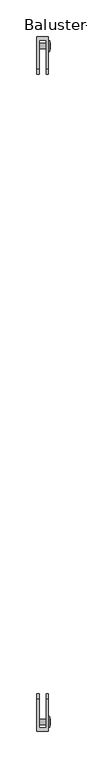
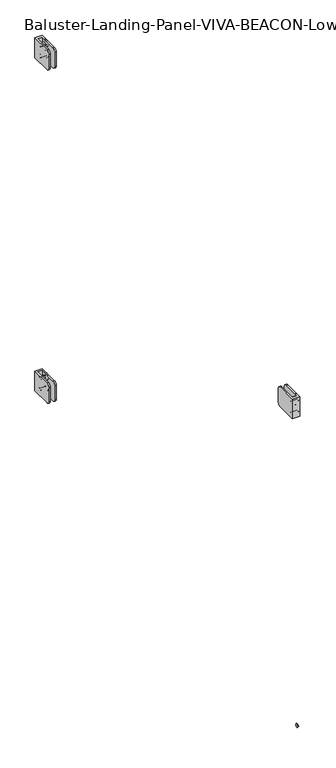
"""IFC4 building model written with IfcOpenShell, lengths in millimetres: railing geometry, Baluster-Landing-Panel-VIVA-BEACON-Lower : Standard_Glass."""

from ifc_helpers import new_model, si_unit, point, frame, origin, place, context, project, spatial, polyline, circle_curve, ellipse_curve, trimmed, outline, extrude, source, transform, mapped, element, save
from ifc_brep_helpers import plane_surface, cylinder_surface, revolved_surface, advanced_brep


def baluster_landing_panel_viva_beacon_lower_standard_glass_253f4b5c(model_context):
    return source(origin(), model_context, "Body", "SolidModel", [
        extrude(outline(polyline([(910.1150835, 973.286725), (908.0681194, 969.7412791), (903.9741911, 969.7412791), (901.9272269, 973.286725), (903.9741911, 976.8321709), (908.0681194, 976.8321709), (910.1150835, 973.286725)])), frame((46.904612, 0.0, 0.0), z_axis=(1.0, 0.0, 0.0), x_axis=(0.0, 1.0, 0.0)), (0.0, 0.0, 1.0), 1.4969696),
        advanced_brep(
        [(33.3375, 909.5666011, 973.286725), (46.0375, 909.5666011, 973.286725), (46.0375, 902.4757093, 973.286725), (33.3375, 902.4757093, 973.286725), (46.0375, 913.4289443, 973.286725), (46.0375, 898.6133661, 973.286725), (46.904612, 907.6772306, 973.286725), (33.3375, 907.6772306, 973.286725), (33.3375, 904.3650798, 973.286725), (46.904612, 904.3650798, 973.286725), (46.8723449, 913.4289443, 973.286725), (48.1536169, 912.1476723, 973.286725), (48.1536169, 899.8946382, 973.286725), (46.8723449, 898.6133661, 973.286725), (48.1536169, 910.3197508, 973.286725), (48.1536169, 901.7225597, 973.286725), (46.904612, 910.3197508, 973.286725), (46.904612, 901.7225597, 973.286725)],
        [
            (0, 1),
            (1, 2, circle_curve(frame((46.0375, 906.0211552, 973.286725), z_axis=(-1.0, 0.0, 0.0), x_axis=(0.0, -1.0, 0.0)), 3.5454459)),
            (2, 3),
            (3, 0, circle_curve(frame((33.3375, 906.0211552, 973.286725), z_axis=(1.0, 0.0, 0.0), x_axis=(0.0, -1.0, 0.0)), 3.5454459)),
            (2, 1, circle_curve(frame((46.0375, 906.0211552, 973.286725), z_axis=(-1.0, 0.0, 0.0), x_axis=(0.0, -1.0, 0.0)), 3.5454459)),
            (0, 3, circle_curve(frame((33.3375, 906.0211552, 973.286725), z_axis=(1.0, 0.0, 0.0), x_axis=(0.0, -1.0, 0.0)), 3.5454459)),
            (1, 4),
            (4, 5, circle_curve(frame((46.0375, 906.0211552, 973.286725), z_axis=(-1.0, 0.0, 0.0), x_axis=(0.0, -1.0, 0.0)), 7.4077891)),
            (5, 2),
            (5, 4, circle_curve(frame((46.0375, 906.0211552, 973.286725), z_axis=(-1.0, 0.0, 0.0), x_axis=(0.0, -1.0, 0.0)), 7.4077891)),
            (6, 7),
            (7, 8, circle_curve(frame((33.3375, 906.0211552, 973.286725), z_axis=(-1.0, 0.0, 0.0), x_axis=(0.0, -1.0, 0.0)), 1.6560754)),
            (8, 9),
            (9, 6, circle_curve(frame((46.904612, 906.0211552, 973.286725), z_axis=(1.0, 0.0, 0.0), x_axis=(0.0, -1.0, 0.0)), 1.6560754)),
            (8, 7, circle_curve(frame((33.3375, 906.0211552, 973.286725), z_axis=(-1.0, 0.0, 0.0), x_axis=(0.0, -1.0, 0.0)), 1.6560754)),
            (6, 9, circle_curve(frame((46.904612, 906.0211552, 973.286725), z_axis=(1.0, 0.0, 0.0), x_axis=(0.0, -1.0, 0.0)), 1.6560754)),
            (10, 11, circle_curve(frame((46.8723449, 912.1476723, 973.286725), z_axis=(0.0, 0.0, -1.0), x_axis=(0.0, 1.0, 0.0)), 1.281272)),
            (11, 12, circle_curve(frame((48.1536169, 906.0211552, 973.286725), z_axis=(-1.0, 0.0, 0.0), x_axis=(0.0, -1.0, 0.0)), 6.1265171)),
            (12, 13, circle_curve(frame((46.8723449, 899.8946382, 973.286725), z_axis=(0.0, 0.0, -1.0), x_axis=(0.0, -1.0, 0.0)), 1.281272)),
            (13, 10, circle_curve(frame((46.8723449, 906.0211552, 973.286725), z_axis=(1.0, 0.0, 0.0), x_axis=(0.0, -1.0, 0.0)), 7.4077891)),
            (12, 11, circle_curve(frame((48.1536169, 906.0211552, 973.286725), z_axis=(-1.0, 0.0, 0.0), x_axis=(0.0, -1.0, 0.0)), 6.1265171)),
            (10, 13, circle_curve(frame((46.8723449, 906.0211552, 973.286725), z_axis=(1.0, 0.0, 0.0), x_axis=(0.0, -1.0, 0.0)), 7.4077891)),
            (11, 14),
            (14, 15, circle_curve(frame((48.1536169, 906.0211552, 973.286725), z_axis=(-1.0, 0.0, 0.0), x_axis=(0.0, -1.0, 0.0)), 4.2985955)),
            (15, 12),
            (15, 14, circle_curve(frame((48.1536169, 906.0211552, 973.286725), z_axis=(-1.0, 0.0, 0.0), x_axis=(0.0, -1.0, 0.0)), 4.2985955)),
            (4, 10),
            (13, 5),
            (7, 0),
            (3, 8),
            (14, 16),
            (16, 17, circle_curve(frame((46.904612, 906.0211552, 973.286725), z_axis=(-1.0, 0.0, 0.0), x_axis=(0.0, -1.0, 0.0)), 4.2985955)),
            (17, 15),
            (17, 16, circle_curve(frame((46.904612, 906.0211552, 973.286725), z_axis=(-1.0, 0.0, 0.0), x_axis=(0.0, -1.0, 0.0)), 4.2985955)),
            (16, 6),
            (9, 17),
        ],
        [
            cylinder_surface(frame((42.5407669, 906.0211552, 973.286725), z_axis=(-1.0, 0.0, 0.0), x_axis=(0.0, -1.0, 0.0)), 3.5454459),
            plane_surface(frame((46.0375, 906.0211552, 973.286725), z_axis=(-1.0, 0.0, 0.0), x_axis=(0.0, -1.0, 0.0))),
            revolved_surface(polyline([(33.3375, 904.3650798, 973.286725), (46.904612, 904.3650798, 973.286725)]), (42.5407669, 906.0211552, 973.286725), (-1.0, 0.0, 0.0)),
            revolved_surface(trimmed(ellipse_curve(frame((46.8723449, 899.8946382, 973.286725), z_axis=(0.0, 0.0, -1.0), x_axis=(0.0, -1.0, 0.0)), 1.281272, 1.281272), [point((48.1536169, 899.8946382, 973.286725))], [point((46.8723449, 898.6133661, 973.286725))], True, "CARTESIAN"), (42.5407669, 906.0211552, 973.286725), (-1.0, 0.0, 0.0)),
            plane_surface(frame((48.1536169, 906.0211552, 973.286725), z_axis=(1.0, 0.0, 0.0), x_axis=(0.0, -1.0, 0.0))),
            cylinder_surface(frame((42.5407669, 906.0211552, 973.286725), z_axis=(-1.0, 0.0, 0.0), x_axis=(0.0, -1.0, 0.0)), 7.4077891),
            plane_surface(frame((33.3375, 906.0211552, 973.286725), z_axis=(-1.0, 0.0, 0.0), x_axis=(0.0, -1.0, 0.0))),
            revolved_surface(polyline([(46.904612, 901.7225596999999, 973.286725), (48.1536169, 901.7225596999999, 973.286725)]), (42.5407669, 906.0211552, 973.286725), (-1.0, 0.0, 0.0)),
            plane_surface(frame((46.904612, 906.0211552, 973.286725), z_axis=(1.0, 0.0, 0.0), x_axis=(0.0, -1.0, 0.0))),
        ],
        [
            (0, [[1, 2, 3, 4]]),
            (0, [[-3, 5, -1, 6]]),
            (1, [[7, 8, 9, -2]]),
            (1, [[-9, 10, -7, -5]]),
            (2, [[11, 12, 13, 14]]),
            (2, [[-13, 15, -11, 16]]),
            (3, [[17, 18, 19, 20]]),
            (3, [[-19, 21, -17, 22]]),
            (4, [[23, 24, 25, -18]]),
            (4, [[-25, 26, -23, -21]]),
            (5, [[27, -20, 28, -8]]),
            (5, [[-28, -22, -27, -10]]),
            (6, [[29, -4, 30, -12]]),
            (6, [[-30, -6, -29, -15]]),
            (7, [[31, 32, 33, -24]]),
            (7, [[-33, 34, -31, -26]]),
            (8, [[35, -14, 36, -32]]),
            (8, [[-36, -16, -35, -34]]),
        ],
    ),
        advanced_brep(
        [(33.3375, 909.5666011, 948.680475), (46.0375, 909.5666011, 948.680475), (46.0375, 902.4757093, 948.680475), (33.3375, 902.4757093, 948.680475), (46.0375, 913.4289443, 948.680475), (46.0375, 898.6133661, 948.680475), (46.904612, 907.6772306, 948.680475), (33.3375, 907.6772306, 948.680475), (33.3375, 904.3650798, 948.680475), (46.904612, 904.3650798, 948.680475), (46.8723449, 913.4289443, 948.680475), (48.1536169, 912.1476723, 948.680475), (48.1536169, 899.8946382, 948.680475), (46.8723449, 898.6133661, 948.680475), (48.1536169, 910.3197508, 948.680475), (48.1536169, 901.7225597, 948.680475), (46.904612, 910.3197508, 948.680475), (46.904612, 901.7225597, 948.680475)],
        [
            (0, 1),
            (1, 2, circle_curve(frame((46.0375, 906.0211552, 948.680475), z_axis=(-1.0, 0.0, 0.0), x_axis=(0.0, -1.0, 0.0)), 3.5454459)),
            (2, 3),
            (3, 0, circle_curve(frame((33.3375, 906.0211552, 948.680475), z_axis=(1.0, 0.0, 0.0), x_axis=(0.0, -1.0, 0.0)), 3.5454459)),
            (2, 1, circle_curve(frame((46.0375, 906.0211552, 948.680475), z_axis=(-1.0, 0.0, 0.0), x_axis=(0.0, -1.0, 0.0)), 3.5454459)),
            (0, 3, circle_curve(frame((33.3375, 906.0211552, 948.680475), z_axis=(1.0, 0.0, 0.0), x_axis=(0.0, -1.0, 0.0)), 3.5454459)),
            (1, 4),
            (4, 5, circle_curve(frame((46.0375, 906.0211552, 948.680475), z_axis=(-1.0, 0.0, 0.0), x_axis=(0.0, -1.0, 0.0)), 7.4077891)),
            (5, 2),
            (5, 4, circle_curve(frame((46.0375, 906.0211552, 948.680475), z_axis=(-1.0, 0.0, 0.0), x_axis=(0.0, -1.0, 0.0)), 7.4077891)),
            (6, 7),
            (7, 8, circle_curve(frame((33.3375, 906.0211552, 948.680475), z_axis=(-1.0, 0.0, 0.0), x_axis=(0.0, -1.0, 0.0)), 1.6560754)),
            (8, 9),
            (9, 6, circle_curve(frame((46.904612, 906.0211552, 948.680475), z_axis=(1.0, 0.0, 0.0), x_axis=(0.0, -1.0, 0.0)), 1.6560754)),
            (8, 7, circle_curve(frame((33.3375, 906.0211552, 948.680475), z_axis=(-1.0, 0.0, 0.0), x_axis=(0.0, -1.0, 0.0)), 1.6560754)),
            (6, 9, circle_curve(frame((46.904612, 906.0211552, 948.680475), z_axis=(1.0, 0.0, 0.0), x_axis=(0.0, -1.0, 0.0)), 1.6560754)),
            (10, 11, circle_curve(frame((46.8723449, 912.1476723, 948.680475), z_axis=(0.0, 0.0, -1.0), x_axis=(0.0, 1.0, 0.0)), 1.281272)),
            (11, 12, circle_curve(frame((48.1536169, 906.0211552, 948.680475), z_axis=(-1.0, 0.0, 0.0), x_axis=(0.0, -1.0, 0.0)), 6.1265171)),
            (12, 13, circle_curve(frame((46.8723449, 899.8946382, 948.680475), z_axis=(0.0, 0.0, -1.0), x_axis=(0.0, -1.0, 0.0)), 1.281272)),
            (13, 10, circle_curve(frame((46.8723449, 906.0211552, 948.680475), z_axis=(1.0, 0.0, 0.0), x_axis=(0.0, -1.0, 0.0)), 7.4077891)),
            (12, 11, circle_curve(frame((48.1536169, 906.0211552, 948.680475), z_axis=(-1.0, 0.0, 0.0), x_axis=(0.0, -1.0, 0.0)), 6.1265171)),
            (10, 13, circle_curve(frame((46.8723449, 906.0211552, 948.680475), z_axis=(1.0, 0.0, 0.0), x_axis=(0.0, -1.0, 0.0)), 7.4077891)),
            (11, 14),
            (14, 15, circle_curve(frame((48.1536169, 906.0211552, 948.680475), z_axis=(-1.0, 0.0, 0.0), x_axis=(0.0, -1.0, 0.0)), 4.2985955)),
            (15, 12),
            (15, 14, circle_curve(frame((48.1536169, 906.0211552, 948.680475), z_axis=(-1.0, 0.0, 0.0), x_axis=(0.0, -1.0, 0.0)), 4.2985955)),
            (7, 0),
            (3, 8),
            (4, 10),
            (13, 5),
            (14, 16),
            (16, 17, circle_curve(frame((46.904612, 906.0211552, 948.680475), z_axis=(-1.0, 0.0, 0.0), x_axis=(0.0, -1.0, 0.0)), 4.2985955)),
            (17, 15),
            (17, 16, circle_curve(frame((46.904612, 906.0211552, 948.680475), z_axis=(-1.0, 0.0, 0.0), x_axis=(0.0, -1.0, 0.0)), 4.2985955)),
            (16, 6),
            (9, 17),
        ],
        [
            cylinder_surface(frame((42.5407669, 906.0211552, 948.680475), z_axis=(-1.0, 0.0, 0.0), x_axis=(0.0, -1.0, 0.0)), 3.5454459),
            plane_surface(frame((46.0375, 906.0211552, 948.680475), z_axis=(-1.0, 0.0, 0.0), x_axis=(0.0, -1.0, 0.0))),
            revolved_surface(polyline([(33.3375, 904.3650798, 948.680475), (46.904612, 904.3650798, 948.680475)]), (42.5407669, 906.0211552, 948.680475), (-1.0, 0.0, 0.0)),
            revolved_surface(trimmed(ellipse_curve(frame((46.8723449, 899.8946382, 948.680475), z_axis=(0.0, 0.0, -1.0), x_axis=(0.0, -1.0, 0.0)), 1.281272, 1.281272), [point((48.1536169, 899.8946382, 948.680475))], [point((46.8723449, 898.6133661, 948.680475))], True, "CARTESIAN"), (42.5407669, 906.0211552, 948.680475), (-1.0, 0.0, 0.0)),
            plane_surface(frame((48.1536169, 906.0211552, 948.680475), z_axis=(1.0, 0.0, 0.0), x_axis=(0.0, -1.0, 0.0))),
            plane_surface(frame((33.3375, 906.0211552, 948.680475), z_axis=(-1.0, 0.0, 0.0), x_axis=(0.0, -1.0, 0.0))),
            cylinder_surface(frame((42.5407669, 906.0211552, 948.680475), z_axis=(-1.0, 0.0, 0.0), x_axis=(0.0, -1.0, 0.0)), 7.4077891),
            revolved_surface(polyline([(46.904612, 901.7225596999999, 948.680475), (48.1536169, 901.7225596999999, 948.680475)]), (42.5407669, 906.0211552, 948.680475), (-1.0, 0.0, 0.0)),
            plane_surface(frame((46.904612, 906.0211552, 948.680475), z_axis=(1.0, 0.0, 0.0), x_axis=(0.0, -1.0, 0.0))),
        ],
        [
            (0, [[1, 2, 3, 4]]),
            (0, [[-3, 5, -1, 6]]),
            (1, [[7, 8, 9, -2]]),
            (1, [[-9, 10, -7, -5]]),
            (2, [[11, 12, 13, 14]]),
            (2, [[-13, 15, -11, 16]]),
            (3, [[17, 18, 19, 20]]),
            (3, [[-19, 21, -17, 22]]),
            (4, [[23, 24, 25, -18]]),
            (4, [[-25, 26, -23, -21]]),
            (5, [[27, -4, 28, -12]]),
            (5, [[-28, -6, -27, -15]]),
            (6, [[29, -20, 30, -8]]),
            (6, [[-30, -22, -29, -10]]),
            (7, [[31, 32, 33, -24]]),
            (7, [[-33, 34, -31, -26]]),
            (8, [[35, -14, 36, -32]]),
            (8, [[-36, -16, -35, -34]]),
        ],
    ),
        extrude(outline(polyline([(910.1150835, 948.680475), (908.0681194, 945.1350291), (903.9741911, 945.1350291), (901.9272269, 948.680475), (903.9741911, 952.2259209), (908.0681194, 952.2259209), (910.1150835, 948.680475)])), frame((46.904612, 0.0, 0.0), z_axis=(1.0, 0.0, 0.0), x_axis=(0.0, 1.0, 0.0)), (0.0, 0.0, 1.0), 1.4969696),
        advanced_brep(
        [(46.0375, 918.6545, 983.2086), (46.0375, 874.2045, 983.2086), (46.0375, 867.8545, 976.8586), (46.0375, 867.8545, 945.1086), (46.0375, 874.2045, 938.7586), (46.0375, 918.6545, 938.7586), (30.1625, 918.6545, 983.2086), (30.1625, 918.6545, 938.7586), (30.1625, 874.2045, 938.7586), (30.1625, 867.8545, 945.1086), (30.1625, 867.8545, 976.8586), (30.1625, 874.2045, 983.2086), (42.8625, 874.2045, 938.7586), (42.8625, 913.9364196, 938.7586), (33.3375, 913.9364196, 938.7586), (33.3375, 874.2045, 938.7586), (42.8625, 913.9364196, 983.2086), (33.3375, 913.9364196, 983.2086), (42.8625, 867.8545, 945.1086), (42.8625, 867.8545, 976.8586), (42.8625, 874.2045, 983.2086), (33.3375, 874.2045, 983.2086), (33.3375, 867.8545, 976.8586), (33.3375, 867.8545, 945.1086)],
        [
            (0, 1),
            (1, 2, circle_curve(frame((46.0375, 874.2045, 976.8586), z_axis=(1.0, 0.0, 0.0), x_axis=(0.0, -1.0, 0.0)), 6.35)),
            (2, 3),
            (3, 4, circle_curve(frame((46.0375, 874.2045, 945.1086), z_axis=(1.0, 0.0, 0.0), x_axis=(0.0, -1.0, 0.0)), 6.35)),
            (4, 5),
            (5, 0),
            (6, 7),
            (7, 8),
            (8, 9, circle_curve(frame((30.1625, 874.2045, 945.1086), z_axis=(-1.0, 0.0, 0.0), x_axis=(0.0, -1.0, 0.0)), 6.35)),
            (9, 10),
            (10, 11, circle_curve(frame((30.1625, 874.2045, 976.8586), z_axis=(-1.0, 0.0, 0.0), x_axis=(0.0, -1.0, 0.0)), 6.35)),
            (11, 6),
            (5, 7),
            (6, 0),
            (4, 12),
            (12, 13),
            (13, 14),
            (14, 15),
            (15, 8),
            (13, 16),
            (16, 17),
            (17, 14),
            (12, 18, circle_curve(frame((42.8625, 874.2045, 945.1086), z_axis=(-1.0, 0.0, 0.0), x_axis=(0.0, -1.0, 0.0)), 6.35)),
            (18, 19),
            (19, 20, circle_curve(frame((42.8625, 874.2045, 976.8586), z_axis=(-1.0, 0.0, 0.0), x_axis=(0.0, -1.0, 0.0)), 6.35)),
            (20, 16),
            (17, 21),
            (21, 22, circle_curve(frame((33.3375, 874.2045, 976.8586), z_axis=(1.0, 0.0, 0.0), x_axis=(0.0, -1.0, 0.0)), 6.35)),
            (22, 23),
            (23, 15, circle_curve(frame((33.3375, 874.2045, 945.1086), z_axis=(1.0, 0.0, 0.0), x_axis=(0.0, -1.0, 0.0)), 6.35)),
            (23, 9),
            (3, 18),
            (22, 10),
            (2, 19),
            (21, 11),
            (1, 20),
        ],
        [
            plane_surface(frame((46.0375, 918.6545, 938.7586), z_axis=(1.0, 0.0, 0.0), x_axis=(0.0, 0.0, -1.0))),
            plane_surface(frame((30.1625, 918.6545, 938.7586), z_axis=(-1.0, 0.0, 0.0), x_axis=(0.0, 0.0, 1.0))),
            plane_surface(frame((46.0375, 918.6545, 983.2086), z_axis=(0.0, 1.0, 0.0), x_axis=(-1.0, 0.0, 0.0))),
            plane_surface(frame((46.0375, 918.6545, 938.7586), z_axis=(0.0, 0.0, -1.0), x_axis=(-1.0, 0.0, 0.0))),
            plane_surface(frame((33.3375, 913.9364196, 995.9086), z_axis=(0.0, -1.0, 0.0), x_axis=(0.0, 0.0, -1.0))),
            plane_surface(frame((42.8625, 913.9364196, 995.9086), z_axis=(-1.0, 0.0, 0.0), x_axis=(0.0, 0.0, -1.0))),
            plane_surface(frame((33.3375, 855.1545, 995.9086), z_axis=(1.0, 0.0, 0.0), x_axis=(0.0, 0.0, -1.0))),
            cylinder_surface(frame((30.1625, 874.2045, 945.1086), z_axis=(1.0, 0.0, 0.0), x_axis=(0.0, -1.0, 0.0)), 6.35),
            plane_surface(frame((46.0375, 867.8545, 945.1086), z_axis=(0.0, -1.0, 0.0), x_axis=(-1.0, 0.0, 0.0))),
            cylinder_surface(frame((30.1625, 874.2045, 976.8586), z_axis=(1.0, 0.0, 0.0), x_axis=(0.0, -1.0, 0.0)), 6.35),
            plane_surface(frame((46.0375, 874.2045, 983.2086), z_axis=(0.0, 0.0, 1.0), x_axis=(-1.0, 0.0, 0.0))),
        ],
        [
            (0, [[1, 2, 3, 4, 5, 6]]),
            (1, [[7, 8, 9, 10, 11, 12]]),
            (2, [[13, -7, 14, -6]]),
            (3, [[15, 16, 17, 18, 19, -8, -13, -5]]),
            (4, [[-17, 20, 21, 22]]),
            (5, [[-16, 23, 24, 25, 26, -20]]),
            (6, [[27, 28, 29, 30, -18, -22]]),
            (7, [[-19, -30, 31, -9]]),
            (7, [[32, -23, -15, -4]]),
            (8, [[-31, -29, 33, -10]]),
            (8, [[34, -24, -32, -3]]),
            (9, [[-33, -28, 35, -11]]),
            (9, [[36, -25, -34, -2]]),
            (10, [[-14, -12, -35, -27, -21, -26, -36, -1]]),
        ],
    ),
        extrude(outline(polyline([(910.1150835, 225.917125), (908.0681194, 222.3716791), (903.9741911, 222.3716791), (901.9272269, 225.917125), (903.9741911, 229.4625709), (908.0681194, 229.4625709), (910.1150835, 225.917125)])), frame((46.904612, 0.0, 0.0), z_axis=(1.0, 0.0, 0.0), x_axis=(0.0, 1.0, 0.0)), (0.0, 0.0, 1.0), 1.4969696),
        advanced_brep(
        [(33.3375, 909.5666011, 225.917125), (46.0375, 909.5666011, 225.917125), (46.0375, 902.4757093, 225.917125), (33.3375, 902.4757093, 225.917125), (46.0375, 913.4289443, 225.917125), (46.0375, 898.6133661, 225.917125), (46.904612, 907.6772306, 225.917125), (33.3375, 907.6772306, 225.917125), (33.3375, 904.3650798, 225.917125), (46.904612, 904.3650798, 225.917125), (46.8723449, 913.4289443, 225.917125), (48.1536169, 912.1476723, 225.917125), (48.1536169, 899.8946382, 225.917125), (46.8723449, 898.6133661, 225.917125), (48.1536169, 910.3197508, 225.917125), (48.1536169, 901.7225597, 225.917125), (46.904612, 910.3197508, 225.917125), (46.904612, 901.7225597, 225.917125)],
        [
            (0, 1),
            (1, 2, circle_curve(frame((46.0375, 906.0211552, 225.917125), z_axis=(-1.0, 0.0, 0.0), x_axis=(0.0, -1.0, 0.0)), 3.5454459)),
            (2, 3),
            (3, 0, circle_curve(frame((33.3375, 906.0211552, 225.917125), z_axis=(1.0, 0.0, 0.0), x_axis=(0.0, -1.0, 0.0)), 3.5454459)),
            (2, 1, circle_curve(frame((46.0375, 906.0211552, 225.917125), z_axis=(-1.0, 0.0, 0.0), x_axis=(0.0, -1.0, 0.0)), 3.5454459)),
            (0, 3, circle_curve(frame((33.3375, 906.0211552, 225.917125), z_axis=(1.0, 0.0, 0.0), x_axis=(0.0, -1.0, 0.0)), 3.5454459)),
            (1, 4),
            (4, 5, circle_curve(frame((46.0375, 906.0211552, 225.917125), z_axis=(-1.0, 0.0, 0.0), x_axis=(0.0, -1.0, 0.0)), 7.4077891)),
            (5, 2),
            (5, 4, circle_curve(frame((46.0375, 906.0211552, 225.917125), z_axis=(-1.0, 0.0, 0.0), x_axis=(0.0, -1.0, 0.0)), 7.4077891)),
            (6, 7),
            (7, 8, circle_curve(frame((33.3375, 906.0211552, 225.917125), z_axis=(-1.0, 0.0, 0.0), x_axis=(0.0, -1.0, 0.0)), 1.6560754)),
            (8, 9),
            (9, 6, circle_curve(frame((46.904612, 906.0211552, 225.917125), z_axis=(1.0, 0.0, 0.0), x_axis=(0.0, -1.0, 0.0)), 1.6560754)),
            (8, 7, circle_curve(frame((33.3375, 906.0211552, 225.917125), z_axis=(-1.0, 0.0, 0.0), x_axis=(0.0, -1.0, 0.0)), 1.6560754)),
            (6, 9, circle_curve(frame((46.904612, 906.0211552, 225.917125), z_axis=(1.0, 0.0, 0.0), x_axis=(0.0, -1.0, 0.0)), 1.6560754)),
            (10, 11, circle_curve(frame((46.8723449, 912.1476723, 225.917125), z_axis=(0.0, 0.0, -1.0), x_axis=(0.0, 1.0, 0.0)), 1.281272)),
            (11, 12, circle_curve(frame((48.1536169, 906.0211552, 225.917125), z_axis=(-1.0, 0.0, 0.0), x_axis=(0.0, -1.0, 0.0)), 6.1265171)),
            (12, 13, circle_curve(frame((46.8723449, 899.8946382, 225.917125), z_axis=(0.0, 0.0, -1.0), x_axis=(0.0, -1.0, 0.0)), 1.281272)),
            (13, 10, circle_curve(frame((46.8723449, 906.0211552, 225.917125), z_axis=(1.0, 0.0, 0.0), x_axis=(0.0, -1.0, 0.0)), 7.4077891)),
            (12, 11, circle_curve(frame((48.1536169, 906.0211552, 225.917125), z_axis=(-1.0, 0.0, 0.0), x_axis=(0.0, -1.0, 0.0)), 6.1265171)),
            (10, 13, circle_curve(frame((46.8723449, 906.0211552, 225.917125), z_axis=(1.0, 0.0, 0.0), x_axis=(0.0, -1.0, 0.0)), 7.4077891)),
            (11, 14),
            (14, 15, circle_curve(frame((48.1536169, 906.0211552, 225.917125), z_axis=(-1.0, 0.0, 0.0), x_axis=(0.0, -1.0, 0.0)), 4.2985955)),
            (15, 12),
            (15, 14, circle_curve(frame((48.1536169, 906.0211552, 225.917125), z_axis=(-1.0, 0.0, 0.0), x_axis=(0.0, -1.0, 0.0)), 4.2985955)),
            (4, 10),
            (13, 5),
            (7, 0),
            (3, 8),
            (14, 16),
            (16, 17, circle_curve(frame((46.904612, 906.0211552, 225.917125), z_axis=(-1.0, 0.0, 0.0), x_axis=(0.0, -1.0, 0.0)), 4.2985955)),
            (17, 15),
            (17, 16, circle_curve(frame((46.904612, 906.0211552, 225.917125), z_axis=(-1.0, 0.0, 0.0), x_axis=(0.0, -1.0, 0.0)), 4.2985955)),
            (16, 6),
            (9, 17),
        ],
        [
            cylinder_surface(frame((42.5407669, 906.0211552, 225.917125), z_axis=(-1.0, 0.0, 0.0), x_axis=(0.0, -1.0, 0.0)), 3.5454459),
            plane_surface(frame((46.0375, 906.0211552, 225.917125), z_axis=(-1.0, 0.0, 0.0), x_axis=(0.0, -1.0, 0.0))),
            revolved_surface(polyline([(33.3375, 904.3650798, 225.917125), (46.904612, 904.3650798, 225.917125)]), (42.5407669, 906.0211552, 225.917125), (-1.0, 0.0, 0.0)),
            revolved_surface(trimmed(ellipse_curve(frame((46.8723449, 899.8946382, 225.917125), z_axis=(0.0, 0.0, -1.0), x_axis=(0.0, -1.0, 0.0)), 1.281272, 1.281272), [point((48.1536169, 899.8946382, 225.917125))], [point((46.8723449, 898.6133661, 225.917125))], True, "CARTESIAN"), (42.5407669, 906.0211552, 225.917125), (-1.0, 0.0, 0.0)),
            plane_surface(frame((48.1536169, 906.0211552, 225.917125), z_axis=(1.0, 0.0, 0.0), x_axis=(0.0, -1.0, 0.0))),
            cylinder_surface(frame((42.5407669, 906.0211552, 225.917125), z_axis=(-1.0, 0.0, 0.0), x_axis=(0.0, -1.0, 0.0)), 7.4077891),
            plane_surface(frame((33.3375, 906.0211552, 225.917125), z_axis=(-1.0, 0.0, 0.0), x_axis=(0.0, -1.0, 0.0))),
            revolved_surface(polyline([(46.904612, 901.7225596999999, 225.917125), (48.1536169, 901.7225596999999, 225.917125)]), (42.5407669, 906.0211552, 225.917125), (-1.0, 0.0, 0.0)),
            plane_surface(frame((46.904612, 906.0211552, 225.917125), z_axis=(1.0, 0.0, 0.0), x_axis=(0.0, -1.0, 0.0))),
        ],
        [
            (0, [[1, 2, 3, 4]]),
            (0, [[-3, 5, -1, 6]]),
            (1, [[7, 8, 9, -2]]),
            (1, [[-9, 10, -7, -5]]),
            (2, [[11, 12, 13, 14]]),
            (2, [[-13, 15, -11, 16]]),
            (3, [[17, 18, 19, 20]]),
            (3, [[-19, 21, -17, 22]]),
            (4, [[23, 24, 25, -18]]),
            (4, [[-25, 26, -23, -21]]),
            (5, [[27, -20, 28, -8]]),
            (5, [[-28, -22, -27, -10]]),
            (6, [[29, -4, 30, -12]]),
            (6, [[-30, -6, -29, -15]]),
            (7, [[31, 32, 33, -24]]),
            (7, [[-33, 34, -31, -26]]),
            (8, [[35, -14, 36, -32]]),
            (8, [[-36, -16, -35, -34]]),
        ],
    ),
        advanced_brep(
        [(33.3375, 909.5666011, 201.310875), (46.0375, 909.5666011, 201.310875), (46.0375, 902.4757093, 201.310875), (33.3375, 902.4757093, 201.310875), (46.0375, 913.4289443, 201.310875), (46.0375, 898.6133661, 201.310875), (46.904612, 907.6772306, 201.310875), (33.3375, 907.6772306, 201.310875), (33.3375, 904.3650798, 201.310875), (46.904612, 904.3650798, 201.310875), (46.8723449, 913.4289443, 201.310875), (48.1536169, 912.1476723, 201.310875), (48.1536169, 899.8946382, 201.310875), (46.8723449, 898.6133661, 201.310875), (48.1536169, 910.3197508, 201.310875), (48.1536169, 901.7225597, 201.310875), (46.904612, 910.3197508, 201.310875), (46.904612, 901.7225597, 201.310875)],
        [
            (0, 1),
            (1, 2, circle_curve(frame((46.0375, 906.0211552, 201.310875), z_axis=(-1.0, 0.0, 0.0), x_axis=(0.0, -1.0, 0.0)), 3.5454459)),
            (2, 3),
            (3, 0, circle_curve(frame((33.3375, 906.0211552, 201.310875), z_axis=(1.0, 0.0, 0.0), x_axis=(0.0, -1.0, 0.0)), 3.5454459)),
            (2, 1, circle_curve(frame((46.0375, 906.0211552, 201.310875), z_axis=(-1.0, 0.0, 0.0), x_axis=(0.0, -1.0, 0.0)), 3.5454459)),
            (0, 3, circle_curve(frame((33.3375, 906.0211552, 201.310875), z_axis=(1.0, 0.0, 0.0), x_axis=(0.0, -1.0, 0.0)), 3.5454459)),
            (1, 4),
            (4, 5, circle_curve(frame((46.0375, 906.0211552, 201.310875), z_axis=(-1.0, 0.0, 0.0), x_axis=(0.0, -1.0, 0.0)), 7.4077891)),
            (5, 2),
            (5, 4, circle_curve(frame((46.0375, 906.0211552, 201.310875), z_axis=(-1.0, 0.0, 0.0), x_axis=(0.0, -1.0, 0.0)), 7.4077891)),
            (6, 7),
            (7, 8, circle_curve(frame((33.3375, 906.0211552, 201.310875), z_axis=(-1.0, 0.0, 0.0), x_axis=(0.0, -1.0, 0.0)), 1.6560754)),
            (8, 9),
            (9, 6, circle_curve(frame((46.904612, 906.0211552, 201.310875), z_axis=(1.0, 0.0, 0.0), x_axis=(0.0, -1.0, 0.0)), 1.6560754)),
            (8, 7, circle_curve(frame((33.3375, 906.0211552, 201.310875), z_axis=(-1.0, 0.0, 0.0), x_axis=(0.0, -1.0, 0.0)), 1.6560754)),
            (6, 9, circle_curve(frame((46.904612, 906.0211552, 201.310875), z_axis=(1.0, 0.0, 0.0), x_axis=(0.0, -1.0, 0.0)), 1.6560754)),
            (10, 11, circle_curve(frame((46.8723449, 912.1476723, 201.310875), z_axis=(0.0, 0.0, -1.0), x_axis=(0.0, 1.0, 0.0)), 1.281272)),
            (11, 12, circle_curve(frame((48.1536169, 906.0211552, 201.310875), z_axis=(-1.0, 0.0, 0.0), x_axis=(0.0, -1.0, 0.0)), 6.1265171)),
            (12, 13, circle_curve(frame((46.8723449, 899.8946382, 201.310875), z_axis=(0.0, 0.0, -1.0), x_axis=(0.0, -1.0, 0.0)), 1.281272)),
            (13, 10, circle_curve(frame((46.8723449, 906.0211552, 201.310875), z_axis=(1.0, 0.0, 0.0), x_axis=(0.0, -1.0, 0.0)), 7.4077891)),
            (12, 11, circle_curve(frame((48.1536169, 906.0211552, 201.310875), z_axis=(-1.0, 0.0, 0.0), x_axis=(0.0, -1.0, 0.0)), 6.1265171)),
            (10, 13, circle_curve(frame((46.8723449, 906.0211552, 201.310875), z_axis=(1.0, 0.0, 0.0), x_axis=(0.0, -1.0, 0.0)), 7.4077891)),
            (11, 14),
            (14, 15, circle_curve(frame((48.1536169, 906.0211552, 201.310875), z_axis=(-1.0, 0.0, 0.0), x_axis=(0.0, -1.0, 0.0)), 4.2985955)),
            (15, 12),
            (15, 14, circle_curve(frame((48.1536169, 906.0211552, 201.310875), z_axis=(-1.0, 0.0, 0.0), x_axis=(0.0, -1.0, 0.0)), 4.2985955)),
            (7, 0),
            (3, 8),
            (4, 10),
            (13, 5),
            (14, 16),
            (16, 17, circle_curve(frame((46.904612, 906.0211552, 201.310875), z_axis=(-1.0, 0.0, 0.0), x_axis=(0.0, -1.0, 0.0)), 4.2985955)),
            (17, 15),
            (17, 16, circle_curve(frame((46.904612, 906.0211552, 201.310875), z_axis=(-1.0, 0.0, 0.0), x_axis=(0.0, -1.0, 0.0)), 4.2985955)),
            (16, 6),
            (9, 17),
        ],
        [
            cylinder_surface(frame((42.5407669, 906.0211552, 201.310875), z_axis=(-1.0, 0.0, 0.0), x_axis=(0.0, -1.0, 0.0)), 3.5454459),
            plane_surface(frame((46.0375, 906.0211552, 201.310875), z_axis=(-1.0, 0.0, 0.0), x_axis=(0.0, -1.0, 0.0))),
            revolved_surface(polyline([(33.3375, 904.3650798, 201.310875), (46.904612, 904.3650798, 201.310875)]), (42.5407669, 906.0211552, 201.310875), (-1.0, 0.0, 0.0)),
            revolved_surface(trimmed(ellipse_curve(frame((46.8723449, 899.8946382, 201.310875), z_axis=(0.0, 0.0, -1.0), x_axis=(0.0, -1.0, 0.0)), 1.281272, 1.281272), [point((48.1536169, 899.8946382, 201.310875))], [point((46.8723449, 898.6133661, 201.310875))], True, "CARTESIAN"), (42.5407669, 906.0211552, 201.310875), (-1.0, 0.0, 0.0)),
            plane_surface(frame((48.1536169, 906.0211552, 201.310875), z_axis=(1.0, 0.0, 0.0), x_axis=(0.0, -1.0, 0.0))),
            plane_surface(frame((33.3375, 906.0211552, 201.310875), z_axis=(-1.0, 0.0, 0.0), x_axis=(0.0, -1.0, 0.0))),
            cylinder_surface(frame((42.5407669, 906.0211552, 201.310875), z_axis=(-1.0, 0.0, 0.0), x_axis=(0.0, -1.0, 0.0)), 7.4077891),
            revolved_surface(polyline([(46.904612, 901.7225596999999, 201.310875), (48.1536169, 901.7225596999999, 201.310875)]), (42.5407669, 906.0211552, 201.310875), (-1.0, 0.0, 0.0)),
            plane_surface(frame((46.904612, 906.0211552, 201.310875), z_axis=(1.0, 0.0, 0.0), x_axis=(0.0, -1.0, 0.0))),
        ],
        [
            (0, [[1, 2, 3, 4]]),
            (0, [[-3, 5, -1, 6]]),
            (1, [[7, 8, 9, -2]]),
            (1, [[-9, 10, -7, -5]]),
            (2, [[11, 12, 13, 14]]),
            (2, [[-13, 15, -11, 16]]),
            (3, [[17, 18, 19, 20]]),
            (3, [[-19, 21, -17, 22]]),
            (4, [[23, 24, 25, -18]]),
            (4, [[-25, 26, -23, -21]]),
            (5, [[27, -4, 28, -12]]),
            (5, [[-28, -6, -27, -15]]),
            (6, [[29, -20, 30, -8]]),
            (6, [[-30, -22, -29, -10]]),
            (7, [[31, 32, 33, -24]]),
            (7, [[-33, 34, -31, -26]]),
            (8, [[35, -14, 36, -32]]),
            (8, [[-36, -16, -35, -34]]),
        ],
    ),
        extrude(outline(polyline([(910.1150835, 201.310875), (908.0681194, 197.7654291), (903.9741911, 197.7654291), (901.9272269, 201.310875), (903.9741911, 204.8563209), (908.0681194, 204.8563209), (910.1150835, 201.310875)])), frame((46.904612, 0.0, 0.0), z_axis=(1.0, 0.0, 0.0), x_axis=(0.0, 1.0, 0.0)), (0.0, 0.0, 1.0), 1.4969696),
        advanced_brep(
        [(46.0375, 918.6545, 235.839), (46.0375, 874.2045, 235.839), (46.0375, 867.8545, 229.489), (46.0375, 867.8545, 197.739), (46.0375, 874.2045, 191.389), (46.0375, 918.6545, 191.389), (30.1625, 918.6545, 235.839), (30.1625, 918.6545, 191.389), (30.1625, 874.2045, 191.389), (30.1625, 867.8545, 197.739), (30.1625, 867.8545, 229.489), (30.1625, 874.2045, 235.839), (42.8625, 874.2045, 191.389), (42.8625, 913.9364196, 191.389), (33.3375, 913.9364196, 191.389), (33.3375, 874.2045, 191.389), (42.8625, 913.9364196, 235.839), (33.3375, 913.9364196, 235.839), (42.8625, 867.8545, 197.739), (42.8625, 867.8545, 229.489), (42.8625, 874.2045, 235.839), (33.3375, 874.2045, 235.839), (33.3375, 867.8545, 229.489), (33.3375, 867.8545, 197.739)],
        [
            (0, 1),
            (1, 2, circle_curve(frame((46.0375, 874.2045, 229.489), z_axis=(1.0, 0.0, 0.0), x_axis=(0.0, -1.0, 0.0)), 6.35)),
            (2, 3),
            (3, 4, circle_curve(frame((46.0375, 874.2045, 197.739), z_axis=(1.0, 0.0, 0.0), x_axis=(0.0, -1.0, 0.0)), 6.35)),
            (4, 5),
            (5, 0),
            (6, 7),
            (7, 8),
            (8, 9, circle_curve(frame((30.1625, 874.2045, 197.739), z_axis=(-1.0, 0.0, 0.0), x_axis=(0.0, -1.0, 0.0)), 6.35)),
            (9, 10),
            (10, 11, circle_curve(frame((30.1625, 874.2045, 229.489), z_axis=(-1.0, 0.0, 0.0), x_axis=(0.0, -1.0, 0.0)), 6.35)),
            (11, 6),
            (5, 7),
            (6, 0),
            (4, 12),
            (12, 13),
            (13, 14),
            (14, 15),
            (15, 8),
            (13, 16),
            (16, 17),
            (17, 14),
            (12, 18, circle_curve(frame((42.8625, 874.2045, 197.739), z_axis=(-1.0, 0.0, 0.0), x_axis=(0.0, -1.0, 0.0)), 6.35)),
            (18, 19),
            (19, 20, circle_curve(frame((42.8625, 874.2045, 229.489), z_axis=(-1.0, 0.0, 0.0), x_axis=(0.0, -1.0, 0.0)), 6.35)),
            (20, 16),
            (17, 21),
            (21, 22, circle_curve(frame((33.3375, 874.2045, 229.489), z_axis=(1.0, 0.0, 0.0), x_axis=(0.0, -1.0, 0.0)), 6.35)),
            (22, 23),
            (23, 15, circle_curve(frame((33.3375, 874.2045, 197.739), z_axis=(1.0, 0.0, 0.0), x_axis=(0.0, -1.0, 0.0)), 6.35)),
            (23, 9),
            (3, 18),
            (22, 10),
            (2, 19),
            (21, 11),
            (1, 20),
        ],
        [
            plane_surface(frame((46.0375, 918.6545, 191.389), z_axis=(1.0, 0.0, 0.0), x_axis=(0.0, 0.0, -1.0))),
            plane_surface(frame((30.1625, 918.6545, 191.389), z_axis=(-1.0, 0.0, 0.0), x_axis=(0.0, 0.0, 1.0))),
            plane_surface(frame((46.0375, 918.6545, 235.839), z_axis=(0.0, 1.0, 0.0), x_axis=(-1.0, 0.0, 0.0))),
            plane_surface(frame((46.0375, 918.6545, 191.389), z_axis=(0.0, 0.0, -1.0), x_axis=(-1.0, 0.0, 0.0))),
            plane_surface(frame((33.3375, 913.9364196, 248.539), z_axis=(0.0, -1.0, 0.0), x_axis=(0.0, 0.0, -1.0))),
            plane_surface(frame((42.8625, 913.9364196, 248.539), z_axis=(-1.0, 0.0, 0.0), x_axis=(0.0, 0.0, -1.0))),
            plane_surface(frame((33.3375, 855.1545, 248.539), z_axis=(1.0, 0.0, 0.0), x_axis=(0.0, 0.0, -1.0))),
            cylinder_surface(frame((30.1625, 874.2045, 197.739), z_axis=(1.0, 0.0, 0.0), x_axis=(0.0, -1.0, 0.0)), 6.35),
            plane_surface(frame((46.0375, 867.8545, 197.739), z_axis=(0.0, -1.0, 0.0), x_axis=(-1.0, 0.0, 0.0))),
            cylinder_surface(frame((30.1625, 874.2045, 229.489), z_axis=(1.0, 0.0, 0.0), x_axis=(0.0, -1.0, 0.0)), 6.35),
            plane_surface(frame((46.0375, 874.2045, 235.839), z_axis=(0.0, 0.0, 1.0), x_axis=(-1.0, 0.0, 0.0))),
        ],
        [
            (0, [[1, 2, 3, 4, 5, 6]]),
            (1, [[7, 8, 9, 10, 11, 12]]),
            (2, [[13, -7, 14, -6]]),
            (3, [[15, 16, 17, 18, 19, -8, -13, -5]]),
            (4, [[-17, 20, 21, 22]]),
            (5, [[-16, 23, 24, 25, 26, -20]]),
            (6, [[27, 28, 29, 30, -18, -22]]),
            (7, [[-19, -30, 31, -9]]),
            (7, [[32, -23, -15, -4]]),
            (8, [[-31, -29, 33, -10]]),
            (8, [[34, -24, -32, -3]]),
            (9, [[-33, -28, 35, -11]]),
            (9, [[36, -25, -34, -2]]),
            (10, [[-14, -12, -35, -27, -21, -26, -36, -1]]),
        ],
    ),
        extrude(outline(polyline([(-18.4480835, 736.5329842), (-16.4011194, 740.0784301), (-12.3071911, 740.0784301), (-10.2602269, 736.5329842), (-12.3071911, 732.9875382), (-16.4011194, 732.9875382), (-18.4480835, 736.5329842)])), frame((46.904612, 0.0, 0.0), z_axis=(1.0, 0.0, 0.0), x_axis=(0.0, 1.0, 0.0)), (0.0, 0.0, 1.0), 1.4969696),
        advanced_brep(
        [(33.3375, -17.8996011, 736.5329842), (33.3375, -10.8087093, 736.5329842), (46.0375, -10.8087093, 736.5329842), (46.0375, -17.8996011, 736.5329842), (46.0375, -6.9463661, 736.5329842), (46.0375, -21.7619443, 736.5329842), (46.904612, -16.0102306, 736.5329842), (46.904612, -12.6980798, 736.5329842), (33.3375, -12.6980798, 736.5329842), (33.3375, -16.0102306, 736.5329842), (46.8723449, -21.7619443, 736.5329842), (46.8723449, -6.9463661, 736.5329842), (48.1536169, -8.2276382, 736.5329842), (48.1536169, -20.4806723, 736.5329842), (48.1536169, -10.0555597, 736.5329842), (48.1536169, -18.6527508, 736.5329842), (46.904612, -10.0555597, 736.5329842), (46.904612, -18.6527508, 736.5329842)],
        [
            (0, 1, circle_curve(frame((33.3375, -14.3541552, 736.5329842), z_axis=(1.0, 0.0, 0.0), x_axis=(0.0, 1.0, 0.0)), 3.5454459)),
            (1, 2),
            (2, 3, circle_curve(frame((46.0375, -14.3541552, 736.5329842), z_axis=(-1.0, 0.0, 0.0), x_axis=(0.0, 1.0, 0.0)), 3.5454459)),
            (3, 0),
            (1, 0, circle_curve(frame((33.3375, -14.3541552, 736.5329842), z_axis=(1.0, 0.0, 0.0), x_axis=(0.0, 1.0, 0.0)), 3.5454459)),
            (3, 2, circle_curve(frame((46.0375, -14.3541552, 736.5329842), z_axis=(-1.0, 0.0, 0.0), x_axis=(0.0, 1.0, 0.0)), 3.5454459)),
            (2, 4),
            (4, 5, circle_curve(frame((46.0375, -14.3541552, 736.5329842), z_axis=(-1.0, 0.0, 0.0), x_axis=(0.0, 1.0, 0.0)), 7.4077891)),
            (5, 3),
            (5, 4, circle_curve(frame((46.0375, -14.3541552, 736.5329842), z_axis=(-1.0, 0.0, 0.0), x_axis=(0.0, 1.0, 0.0)), 7.4077891)),
            (6, 7, circle_curve(frame((46.904612, -14.3541552, 736.5329842), z_axis=(1.0, 0.0, 0.0), x_axis=(0.0, 1.0, 0.0)), 1.6560754)),
            (7, 8),
            (8, 9, circle_curve(frame((33.3375, -14.3541552, 736.5329842), z_axis=(-1.0, 0.0, 0.0), x_axis=(0.0, 1.0, 0.0)), 1.6560754)),
            (9, 6),
            (7, 6, circle_curve(frame((46.904612, -14.3541552, 736.5329842), z_axis=(1.0, 0.0, 0.0), x_axis=(0.0, 1.0, 0.0)), 1.6560754)),
            (9, 8, circle_curve(frame((33.3375, -14.3541552, 736.5329842), z_axis=(-1.0, 0.0, 0.0), x_axis=(0.0, 1.0, 0.0)), 1.6560754)),
            (10, 11, circle_curve(frame((46.8723449, -14.3541552, 736.5329842), z_axis=(1.0, 0.0, 0.0), x_axis=(0.0, 1.0, 0.0)), 7.4077891)),
            (11, 12, circle_curve(frame((46.8723449, -8.2276382, 736.5329842), z_axis=(0.0, 0.0, -1.0), x_axis=(0.0, 1.0, 0.0)), 1.281272)),
            (12, 13, circle_curve(frame((48.1536169, -14.3541552, 736.5329842), z_axis=(-1.0, 0.0, 0.0), x_axis=(0.0, 1.0, 0.0)), 6.1265171)),
            (13, 10, circle_curve(frame((46.8723449, -20.4806723, 736.5329842), z_axis=(0.0, 0.0, -1.0), x_axis=(0.0, -1.0, 0.0)), 1.281272)),
            (11, 10, circle_curve(frame((46.8723449, -14.3541552, 736.5329842), z_axis=(1.0, 0.0, 0.0), x_axis=(0.0, 1.0, 0.0)), 7.4077891)),
            (13, 12, circle_curve(frame((48.1536169, -14.3541552, 736.5329842), z_axis=(-1.0, 0.0, 0.0), x_axis=(0.0, 1.0, 0.0)), 6.1265171)),
            (12, 14),
            (14, 15, circle_curve(frame((48.1536169, -14.3541552, 736.5329842), z_axis=(-1.0, 0.0, 0.0), x_axis=(0.0, 1.0, 0.0)), 4.2985955)),
            (15, 13),
            (15, 14, circle_curve(frame((48.1536169, -14.3541552, 736.5329842), z_axis=(-1.0, 0.0, 0.0), x_axis=(0.0, 1.0, 0.0)), 4.2985955)),
            (4, 11),
            (10, 5),
            (8, 1),
            (0, 9),
            (14, 16),
            (16, 17, circle_curve(frame((46.904612, -14.3541552, 736.5329842), z_axis=(-1.0, 0.0, 0.0), x_axis=(0.0, 1.0, 0.0)), 4.2985955)),
            (17, 15),
            (17, 16, circle_curve(frame((46.904612, -14.3541552, 736.5329842), z_axis=(-1.0, 0.0, 0.0), x_axis=(0.0, 1.0, 0.0)), 4.2985955)),
            (16, 7),
            (6, 17),
        ],
        [
            cylinder_surface(frame((42.5407669, -14.3541552, 736.5329842), z_axis=(-1.0, 0.0, 0.0), x_axis=(0.0, 1.0, 0.0)), 3.5454459),
            plane_surface(frame((46.0375, -14.3541552, 736.5329842), z_axis=(-1.0, 0.0, 0.0), x_axis=(0.0, 1.0, 0.0))),
            revolved_surface(polyline([(33.3375, -12.698079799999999, 736.5329842), (46.904612, -12.698079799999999, 736.5329842)]), (42.5407669, -14.3541552, 736.5329842), (-1.0, 0.0, 0.0)),
            revolved_surface(trimmed(ellipse_curve(frame((46.8723449, -8.2276382, 736.5329842), z_axis=(0.0, 0.0, 1.0), x_axis=(0.0, 1.0, 0.0)), 1.281272, 1.281272), [point((48.1536169, -8.2276382, 736.5329842))], [point((46.8723449, -6.9463661, 736.5329842))], True, "CARTESIAN"), (42.5407669, -14.3541552, 736.5329842), (-1.0, 0.0, 0.0)),
            plane_surface(frame((48.1536169, -14.3541552, 736.5329842), z_axis=(1.0, 0.0, 0.0), x_axis=(0.0, 1.0, 0.0))),
            cylinder_surface(frame((42.5407669, -14.3541552, 736.5329842), z_axis=(-1.0, 0.0, 0.0), x_axis=(0.0, 1.0, 0.0)), 7.4077891),
            plane_surface(frame((33.3375, -14.3541552, 736.5329842), z_axis=(-1.0, 0.0, 0.0), x_axis=(0.0, 1.0, 0.0))),
            revolved_surface(polyline([(46.904612, -10.0555597, 736.5329842), (48.1536169, -10.0555597, 736.5329842)]), (42.5407669, -14.3541552, 736.5329842), (-1.0, 0.0, 0.0)),
            plane_surface(frame((46.904612, -14.3541552, 736.5329842), z_axis=(1.0, 0.0, 0.0), x_axis=(0.0, 1.0, 0.0))),
        ],
        [
            (0, [[1, 2, 3, 4]]),
            (0, [[5, -4, 6, -2]]),
            (1, [[-3, 7, 8, 9]]),
            (1, [[-6, -9, 10, -7]]),
            (2, [[11, 12, 13, 14]]),
            (2, [[15, -14, 16, -12]]),
            (3, [[17, 18, 19, 20]]),
            (3, [[21, -20, 22, -18]]),
            (4, [[-19, 23, 24, 25]]),
            (4, [[-22, -25, 26, -23]]),
            (5, [[-8, 27, -17, 28]]),
            (5, [[-10, -28, -21, -27]]),
            (6, [[-13, 29, -1, 30]]),
            (6, [[-16, -30, -5, -29]]),
            (7, [[-24, 31, 32, 33]]),
            (7, [[-26, -33, 34, -31]]),
            (8, [[-32, 35, -11, 36]]),
            (8, [[-34, -36, -15, -35]]),
        ],
    ),
        advanced_brep(
        [(33.3375, -17.8996011, 711.9267342), (33.3375, -10.8087093, 711.9267342), (46.0375, -10.8087093, 711.9267342), (46.0375, -17.8996011, 711.9267342), (46.0375, -6.9463661, 711.9267342), (46.0375, -21.7619443, 711.9267342), (46.904612, -16.0102306, 711.9267342), (46.904612, -12.6980798, 711.9267342), (33.3375, -12.6980798, 711.9267342), (33.3375, -16.0102306, 711.9267342), (46.8723449, -21.7619443, 711.9267342), (46.8723449, -6.9463661, 711.9267342), (48.1536169, -8.2276382, 711.9267342), (48.1536169, -20.4806723, 711.9267342), (48.1536169, -10.0555597, 711.9267342), (48.1536169, -18.6527508, 711.9267342), (46.904612, -10.0555597, 711.9267342), (46.904612, -18.6527508, 711.9267342)],
        [
            (0, 1, circle_curve(frame((33.3375, -14.3541552, 711.9267342), z_axis=(1.0, 0.0, 0.0), x_axis=(0.0, 1.0, 0.0)), 3.5454459)),
            (1, 2),
            (2, 3, circle_curve(frame((46.0375, -14.3541552, 711.9267342), z_axis=(-1.0, 0.0, 0.0), x_axis=(0.0, 1.0, 0.0)), 3.5454459)),
            (3, 0),
            (1, 0, circle_curve(frame((33.3375, -14.3541552, 711.9267342), z_axis=(1.0, 0.0, 0.0), x_axis=(0.0, 1.0, 0.0)), 3.5454459)),
            (3, 2, circle_curve(frame((46.0375, -14.3541552, 711.9267342), z_axis=(-1.0, 0.0, 0.0), x_axis=(0.0, 1.0, 0.0)), 3.5454459)),
            (2, 4),
            (4, 5, circle_curve(frame((46.0375, -14.3541552, 711.9267342), z_axis=(-1.0, 0.0, 0.0), x_axis=(0.0, 1.0, 0.0)), 7.4077891)),
            (5, 3),
            (5, 4, circle_curve(frame((46.0375, -14.3541552, 711.9267342), z_axis=(-1.0, 0.0, 0.0), x_axis=(0.0, 1.0, 0.0)), 7.4077891)),
            (6, 7, circle_curve(frame((46.904612, -14.3541552, 711.9267342), z_axis=(1.0, 0.0, 0.0), x_axis=(0.0, 1.0, 0.0)), 1.6560754)),
            (7, 8),
            (8, 9, circle_curve(frame((33.3375, -14.3541552, 711.9267342), z_axis=(-1.0, 0.0, 0.0), x_axis=(0.0, 1.0, 0.0)), 1.6560754)),
            (9, 6),
            (7, 6, circle_curve(frame((46.904612, -14.3541552, 711.9267342), z_axis=(1.0, 0.0, 0.0), x_axis=(0.0, 1.0, 0.0)), 1.6560754)),
            (9, 8, circle_curve(frame((33.3375, -14.3541552, 711.9267342), z_axis=(-1.0, 0.0, 0.0), x_axis=(0.0, 1.0, 0.0)), 1.6560754)),
            (10, 11, circle_curve(frame((46.8723449, -14.3541552, 711.9267342), z_axis=(1.0, 0.0, 0.0), x_axis=(0.0, 1.0, 0.0)), 7.4077891)),
            (11, 12, circle_curve(frame((46.8723449, -8.2276382, 711.9267342), z_axis=(0.0, 0.0, -1.0), x_axis=(0.0, 1.0, 0.0)), 1.281272)),
            (12, 13, circle_curve(frame((48.1536169, -14.3541552, 711.9267342), z_axis=(-1.0, 0.0, 0.0), x_axis=(0.0, 1.0, 0.0)), 6.1265171)),
            (13, 10, circle_curve(frame((46.8723449, -20.4806723, 711.9267342), z_axis=(0.0, 0.0, -1.0), x_axis=(0.0, -1.0, 0.0)), 1.281272)),
            (11, 10, circle_curve(frame((46.8723449, -14.3541552, 711.9267342), z_axis=(1.0, 0.0, 0.0), x_axis=(0.0, 1.0, 0.0)), 7.4077891)),
            (13, 12, circle_curve(frame((48.1536169, -14.3541552, 711.9267342), z_axis=(-1.0, 0.0, 0.0), x_axis=(0.0, 1.0, 0.0)), 6.1265171)),
            (12, 14),
            (14, 15, circle_curve(frame((48.1536169, -14.3541552, 711.9267342), z_axis=(-1.0, 0.0, 0.0), x_axis=(0.0, 1.0, 0.0)), 4.2985955)),
            (15, 13),
            (15, 14, circle_curve(frame((48.1536169, -14.3541552, 711.9267342), z_axis=(-1.0, 0.0, 0.0), x_axis=(0.0, 1.0, 0.0)), 4.2985955)),
            (8, 1),
            (0, 9),
            (4, 11),
            (10, 5),
            (14, 16),
            (16, 17, circle_curve(frame((46.904612, -14.3541552, 711.9267342), z_axis=(-1.0, 0.0, 0.0), x_axis=(0.0, 1.0, 0.0)), 4.2985955)),
            (17, 15),
            (17, 16, circle_curve(frame((46.904612, -14.3541552, 711.9267342), z_axis=(-1.0, 0.0, 0.0), x_axis=(0.0, 1.0, 0.0)), 4.2985955)),
            (16, 7),
            (6, 17),
        ],
        [
            cylinder_surface(frame((42.5407669, -14.3541552, 711.9267342), z_axis=(-1.0, 0.0, 0.0), x_axis=(0.0, 1.0, 0.0)), 3.5454459),
            plane_surface(frame((46.0375, -14.3541552, 711.9267342), z_axis=(-1.0, 0.0, 0.0), x_axis=(0.0, 1.0, 0.0))),
            revolved_surface(polyline([(33.3375, -12.698079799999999, 711.9267342), (46.904612, -12.698079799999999, 711.9267342)]), (42.5407669, -14.3541552, 711.9267342), (-1.0, 0.0, 0.0)),
            revolved_surface(trimmed(ellipse_curve(frame((46.8723449, -8.2276382, 711.9267342), z_axis=(0.0, 0.0, 1.0), x_axis=(0.0, 1.0, 0.0)), 1.281272, 1.281272), [point((48.1536169, -8.2276382, 711.9267342))], [point((46.8723449, -6.9463661, 711.9267342))], True, "CARTESIAN"), (42.5407669, -14.3541552, 711.9267342), (-1.0, 0.0, 0.0)),
            plane_surface(frame((48.1536169, -14.3541552, 711.9267342), z_axis=(1.0, 0.0, 0.0), x_axis=(0.0, 1.0, 0.0))),
            plane_surface(frame((33.3375, -14.3541552, 711.9267342), z_axis=(-1.0, 0.0, 0.0), x_axis=(0.0, 1.0, 0.0))),
            cylinder_surface(frame((42.5407669, -14.3541552, 711.9267342), z_axis=(-1.0, 0.0, 0.0), x_axis=(0.0, 1.0, 0.0)), 7.4077891),
            revolved_surface(polyline([(46.904612, -10.0555597, 711.9267342), (48.1536169, -10.0555597, 711.9267342)]), (42.5407669, -14.3541552, 711.9267342), (-1.0, 0.0, 0.0)),
            plane_surface(frame((46.904612, -14.3541552, 711.9267342), z_axis=(1.0, 0.0, 0.0), x_axis=(0.0, 1.0, 0.0))),
        ],
        [
            (0, [[1, 2, 3, 4]]),
            (0, [[5, -4, 6, -2]]),
            (1, [[-3, 7, 8, 9]]),
            (1, [[-6, -9, 10, -7]]),
            (2, [[11, 12, 13, 14]]),
            (2, [[15, -14, 16, -12]]),
            (3, [[17, 18, 19, 20]]),
            (3, [[21, -20, 22, -18]]),
            (4, [[-19, 23, 24, 25]]),
            (4, [[-22, -25, 26, -23]]),
            (5, [[-13, 27, -1, 28]]),
            (5, [[-16, -28, -5, -27]]),
            (6, [[-8, 29, -17, 30]]),
            (6, [[-10, -30, -21, -29]]),
            (7, [[-24, 31, 32, 33]]),
            (7, [[-26, -33, 34, -31]]),
            (8, [[-32, 35, -11, 36]]),
            (8, [[-34, -36, -15, -35]]),
        ],
    ),
        extrude(outline(polyline([(-18.4480835, 711.9267342), (-16.4011194, 715.4721801), (-12.3071911, 715.4721801), (-10.2602269, 711.9267342), (-12.3071911, 708.3812882), (-16.4011194, 708.3812882), (-18.4480835, 711.9267342)])), frame((46.904612, 0.0, 0.0), z_axis=(1.0, 0.0, 0.0), x_axis=(0.0, 1.0, 0.0)), (0.0, 0.0, 1.0), 1.4969696),
        advanced_brep(
        [(46.0375, -26.9875, 746.4548592), (46.0375, -26.9875, 702.0048592), (46.0375, 17.4625, 702.0048592), (46.0375, 23.8125, 708.3548592), (46.0375, 23.8125, 740.1048592), (46.0375, 17.4625, 746.4548592), (30.1625, -26.9875, 746.4548592), (30.1625, 17.4625, 746.4548592), (30.1625, 23.8125, 740.1048592), (30.1625, 23.8125, 708.3548592), (30.1625, 17.4625, 702.0048592), (30.1625, -26.9875, 702.0048592), (33.3375, 17.4625, 702.0048592), (33.3375, -22.2694196, 702.0048592), (42.8625, -22.2694196, 702.0048592), (42.8625, 17.4625, 702.0048592), (33.3375, -22.2694196, 746.4548592), (42.8625, -22.2694196, 746.4548592), (42.8625, 17.4625, 746.4548592), (42.8625, 23.8125, 740.1048592), (42.8625, 23.8125, 708.3548592), (33.3375, 23.8125, 708.3548592), (33.3375, 23.8125, 740.1048592), (33.3375, 17.4625, 746.4548592)],
        [
            (0, 1),
            (1, 2),
            (2, 3, circle_curve(frame((46.0375, 17.4625, 708.3548592), z_axis=(1.0, 0.0, 0.0), x_axis=(0.0, 1.0, 0.0)), 6.35)),
            (3, 4),
            (4, 5, circle_curve(frame((46.0375, 17.4625, 740.1048592), z_axis=(1.0, 0.0, 0.0), x_axis=(0.0, 1.0, 0.0)), 6.35)),
            (5, 0),
            (6, 7),
            (7, 8, circle_curve(frame((30.1625, 17.4625, 740.1048592), z_axis=(-1.0, 0.0, 0.0), x_axis=(0.0, 1.0, 0.0)), 6.35)),
            (8, 9),
            (9, 10, circle_curve(frame((30.1625, 17.4625, 708.3548592), z_axis=(-1.0, 0.0, 0.0), x_axis=(0.0, 1.0, 0.0)), 6.35)),
            (10, 11),
            (11, 6),
            (0, 6),
            (11, 1),
            (10, 12),
            (12, 13),
            (13, 14),
            (14, 15),
            (15, 2),
            (13, 16),
            (16, 17),
            (17, 14),
            (17, 18),
            (18, 19, circle_curve(frame((42.8625, 17.4625, 740.1048592), z_axis=(-1.0, 0.0, 0.0), x_axis=(0.0, 1.0, 0.0)), 6.35)),
            (19, 20),
            (20, 15, circle_curve(frame((42.8625, 17.4625, 708.3548592), z_axis=(-1.0, 0.0, 0.0), x_axis=(0.0, 1.0, 0.0)), 6.35)),
            (12, 21, circle_curve(frame((33.3375, 17.4625, 708.3548592), z_axis=(1.0, 0.0, 0.0), x_axis=(0.0, 1.0, 0.0)), 6.35)),
            (21, 22),
            (22, 23, circle_curve(frame((33.3375, 17.4625, 740.1048592), z_axis=(1.0, 0.0, 0.0), x_axis=(0.0, 1.0, 0.0)), 6.35)),
            (23, 16),
            (20, 3),
            (9, 21),
            (19, 4),
            (8, 22),
            (18, 5),
            (7, 23),
        ],
        [
            plane_surface(frame((46.0375, -26.9875, 702.0048592), z_axis=(1.0, 0.0, 0.0), x_axis=(0.0, 0.0, -1.0))),
            plane_surface(frame((30.1625, -26.9875, 702.0048592), z_axis=(-1.0, 0.0, 0.0), x_axis=(0.0, 0.0, 1.0))),
            plane_surface(frame((46.0375, -26.9875, 746.4548592), z_axis=(0.0, -1.0, 0.0), x_axis=(-1.0, 0.0, 0.0))),
            plane_surface(frame((46.0375, -26.9875, 702.0048592), z_axis=(0.0, 0.0, -1.0), x_axis=(-1.0, 0.0, 0.0))),
            plane_surface(frame((33.3375, -22.2694196, 759.1548592), z_axis=(0.0, 1.0, 0.0), x_axis=(0.0, 0.0, -1.0))),
            plane_surface(frame((42.8625, -22.2694196, 759.1548592), z_axis=(-1.0, 0.0, 0.0), x_axis=(0.0, 0.0, -1.0))),
            plane_surface(frame((33.3375, 36.5125, 759.1548592), z_axis=(1.0, 0.0, 0.0), x_axis=(0.0, 0.0, -1.0))),
            cylinder_surface(frame((30.1625, 17.4625, 708.3548592), z_axis=(1.0, 0.0, 0.0), x_axis=(0.0, 1.0, 0.0)), 6.35),
            plane_surface(frame((46.0375, 23.8125, 708.3548592), z_axis=(0.0, 1.0, 0.0), x_axis=(-1.0, 0.0, 0.0))),
            cylinder_surface(frame((30.1625, 17.4625, 740.1048592), z_axis=(1.0, 0.0, 0.0), x_axis=(0.0, 1.0, 0.0)), 6.35),
            plane_surface(frame((46.0375, 17.4625, 746.4548592), z_axis=(0.0, 0.0, 1.0), x_axis=(-1.0, 0.0, 0.0))),
        ],
        [
            (0, [[1, 2, 3, 4, 5, 6]]),
            (1, [[7, 8, 9, 10, 11, 12]]),
            (2, [[-1, 13, -12, 14]]),
            (3, [[-2, -14, -11, 15, 16, 17, 18, 19]]),
            (4, [[20, 21, 22, -17]]),
            (5, [[-22, 23, 24, 25, 26, -18]]),
            (6, [[-20, -16, 27, 28, 29, 30]]),
            (7, [[-3, -19, -26, 31]]),
            (7, [[-10, 32, -27, -15]]),
            (8, [[-4, -31, -25, 33]]),
            (8, [[-9, 34, -28, -32]]),
            (9, [[-5, -33, -24, 35]]),
            (9, [[-8, 36, -29, -34]]),
            (10, [[-6, -35, -23, -21, -30, -36, -7, -13]]),
        ],
    ),
        extrude(outline(polyline([(-18.4480835, 0.771525), (-16.4011194, 4.3169709), (-12.3071911, 4.3169709), (-10.2602269, 0.771525), (-12.3071911, -2.7739209), (-16.4011194, -2.7739209), (-18.4480835, 0.771525)])), frame((46.904612, 0.0, 0.0), z_axis=(1.0, 0.0, 0.0), x_axis=(0.0, 1.0, 0.0)), (0.0, 0.0, 1.0), 1.4969696),
    ])


if __name__ == "__main__":
    model = new_model("IFC4")
    model_context = context("Model", 3, world=origin())
    ifc_project = project(units=[si_unit("LENGTHUNIT", "METRE", prefix="MILLI")], contexts=[model_context])
    site = spatial("IfcSite", under=ifc_project)
    building = spatial("IfcBuilding", under=site)
    placement = place(None, origin())
    baluster_landing_panel_viva_beacon_lower_standard_glass_shape = baluster_landing_panel_viva_beacon_lower_standard_glass_253f4b5c(model_context)
    element("IfcRailing", 1, ObjectType="Baluster-Landing-Panel-VIVA-BEACON-Lower : Standard_Glass", at=placement, inside=building, context=model_context, shape_type="MappedRepresentation", body=[
        mapped(baluster_landing_panel_viva_beacon_lower_standard_glass_shape, transform((0.0, 0.0, 0.0), x_axis=(1.0, 0.0, 0.0), y_axis=(0.0, 1.0, 0.0), z_axis=(0.0, 0.0, 1.0))),
    ])
    save(model, "model.ifc")
